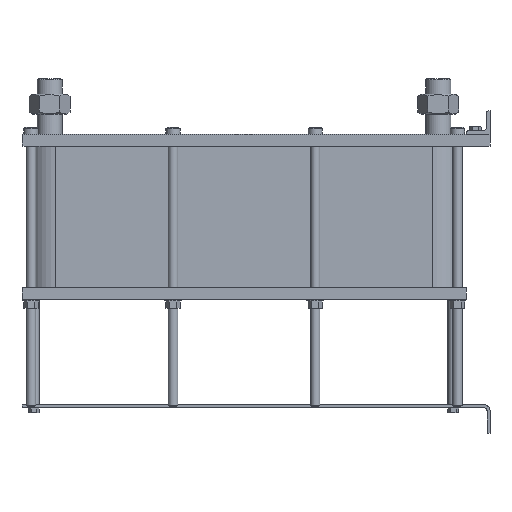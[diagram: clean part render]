
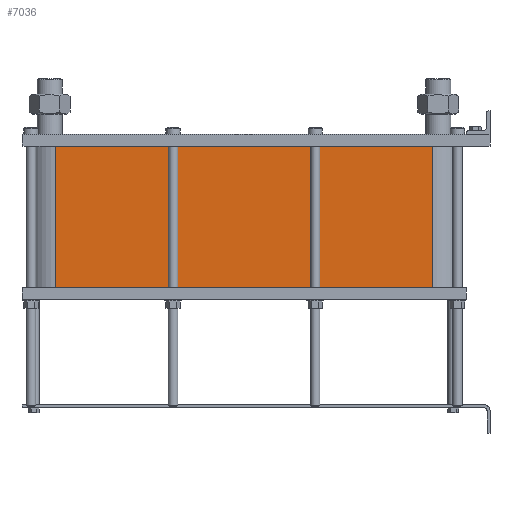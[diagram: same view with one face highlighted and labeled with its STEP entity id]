
A CAD part, left-side view. The second image highlights one B-rep face of the part: STEP entity #7036.
In plain terms, the highlighted planar face has unit normal (-1, 0, 0).
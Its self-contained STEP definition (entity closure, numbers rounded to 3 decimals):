
#999=LINE('',#15640,#1553);
#1031=LINE('',#15723,#1585);
#1032=LINE('',#15726,#1586);
#1033=LINE('',#15727,#1587);
#1553=VECTOR('',#9658,10.);
#1585=VECTOR('',#9736,10.);
#1586=VECTOR('',#9741,10.);
#1587=VECTOR('',#9742,10.);
#2117=FACE_OUTER_BOUND('',#2671,.T.);
#2671=EDGE_LOOP('',(#6246,#6247,#6248,#6249));
#3527=VERTEX_POINT('',#15634);
#3529=VERTEX_POINT('',#15638);
#3556=VERTEX_POINT('',#15720);
#3557=VERTEX_POINT('',#15722);
#4425=EDGE_CURVE('',#3529,#3527,#999,.T.);
#4466=EDGE_CURVE('',#3557,#3556,#1031,.T.);
#4468=EDGE_CURVE('',#3527,#3556,#1032,.T.);
#4469=EDGE_CURVE('',#3557,#3529,#1033,.T.);
#6246=ORIENTED_EDGE('',*,*,#4468,.F.);
#6247=ORIENTED_EDGE('',*,*,#4425,.F.);
#6248=ORIENTED_EDGE('',*,*,#4469,.F.);
#6249=ORIENTED_EDGE('',*,*,#4466,.T.);
#6608=PLANE('',#7812);
#7036=ADVANCED_FACE('',(#2117),#6608,.T.);
#7812=AXIS2_PLACEMENT_3D('',#15725,#9739,#9740);
#9658=DIRECTION('',(0.,0.,-1.));
#9736=DIRECTION('',(0.,0.,-1.));
#9739=DIRECTION('center_axis',(-1.,0.,0.));
#9740=DIRECTION('ref_axis',(0.,1.,0.));
#9741=DIRECTION('',(0.,1.,0.));
#9742=DIRECTION('',(0.,-1.,0.));
#15634=CARTESIAN_POINT('',(-72.,97.5,-238.7));
#15638=CARTESIAN_POINT('',(-72.,97.5,0.));
#15640=CARTESIAN_POINT('',(-72.,97.5,0.));
#15720=CARTESIAN_POINT('',(-72.,733.5,-238.7));
#15722=CARTESIAN_POINT('',(-72.,733.5,0.));
#15723=CARTESIAN_POINT('',(-72.,733.5,0.));
#15725=CARTESIAN_POINT('Origin',(-72.,97.5,0.));
#15726=CARTESIAN_POINT('',(-72.,256.5,-238.7));
#15727=CARTESIAN_POINT('',(-72.,733.5,0.));
